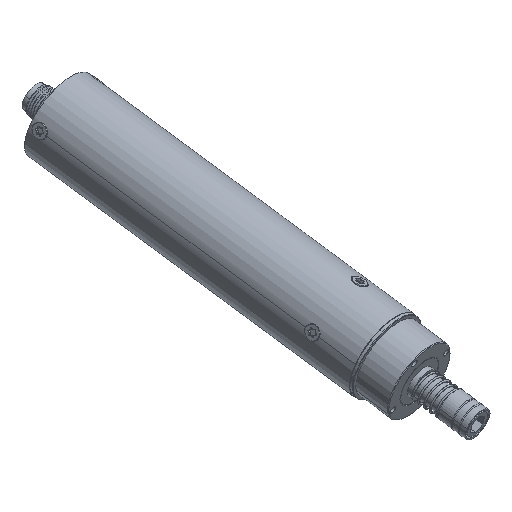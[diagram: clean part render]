
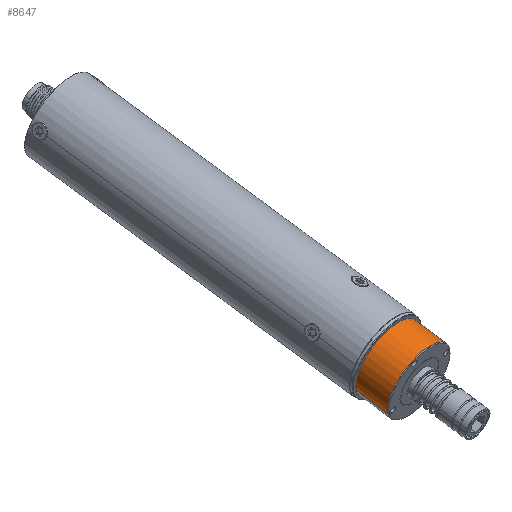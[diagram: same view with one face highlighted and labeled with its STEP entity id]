
A CAD part, top view. The second image highlights one B-rep face of the part: STEP entity #8647.
In plain terms, the highlighted cylindrical face has radius 15 mm (diameter 30 mm), a partial arc.
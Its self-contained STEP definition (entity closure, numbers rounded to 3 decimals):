
#473 = EDGE_CURVE ( 'NONE', #10354, #1283, #24158, .T. ) ;
#554 = DIRECTION ( 'NONE',  ( 0.745, -0.551, 0.377 ) ) ;
#1283 = VERTEX_POINT ( 'NONE', #4104 ) ;
#4039 = DIRECTION ( 'NONE',  ( -0.656, -0.707, 0.263 ) ) ;
#4104 = CARTESIAN_POINT ( 'NONE',  ( -4.143, 137.569, 11.341 ) ) ;
#4416 = CARTESIAN_POINT ( 'NONE',  ( -40.362, 128.582, 10.856 ) ) ;
#4681 = DIRECTION ( 'NONE',  ( 0.745, -0.551, 0.377 ) ) ;
#6434 = CARTESIAN_POINT ( 'NONE',  ( -34.033, 123.901, 14.063 ) ) ;
#7868 = DIRECTION ( 'NONE',  ( -0.745, 0.551, -0.377 ) ) ;
#8045 = EDGE_CURVE ( 'NONE', #24093, #27332, #36124, .T. ) ;
#8256 = LINE ( 'NONE', #4416, #22017 ) ;
#8533 = CARTESIAN_POINT ( 'NONE',  ( -20.671, 149.795, 2.964 ) ) ;
#8647 = ADVANCED_FACE ( 'NONE', ( #19640 ), #21595, .T. ) ;
#10344 = CARTESIAN_POINT ( 'NONE',  ( -23.833, 116.356, 19.232 ) ) ;
#10354 = VERTEX_POINT ( 'NONE', #10344 ) ;
#11690 = CARTESIAN_POINT ( 'NONE',  ( -24.188, 134.507, 10.117 ) ) ;
#12340 = LINE ( 'NONE', #8533, #23544 ) ;
#13942 = AXIS2_PLACEMENT_3D ( 'NONE', #26936, #23169, #19301 ) ;
#15549 = ORIENTED_EDGE ( 'NONE', *, *, #8045, .F. ) ;
#17735 = AXIS2_PLACEMENT_3D ( 'NONE', #36371, #32534, #28664 ) ;
#19301 = DIRECTION ( 'NONE',  ( -0.656, -0.707, 0.263 ) ) ;
#19640 = FACE_OUTER_BOUND ( 'NONE', #27234, .T. ) ;
#20292 = AXIS2_PLACEMENT_3D ( 'NONE', #11690, #7868, #4039 ) ;
#21595 = CYLINDRICAL_SURFACE ( 'NONE', #17735, 15. ) ;
#21614 = CARTESIAN_POINT ( 'NONE',  ( -14.343, 145.114, 6.172 ) ) ;
#22017 = VECTOR ( 'NONE', #554, 1000. ) ;
#22410 = EDGE_CURVE ( 'NONE', #24093, #10354, #8256, .T. ) ;
#23169 = DIRECTION ( 'NONE',  ( -0.745, 0.551, -0.377 ) ) ;
#23403 = EDGE_CURVE ( 'NONE', #27332, #1283, #12340, .T. ) ;
#23544 = VECTOR ( 'NONE', #4681, 1000. ) ;
#24093 = VERTEX_POINT ( 'NONE', #6434 ) ;
#24158 = CIRCLE ( 'NONE', #13942, 15. ) ;
#25807 = ORIENTED_EDGE ( 'NONE', *, *, #473, .T. ) ;
#26936 = CARTESIAN_POINT ( 'NONE',  ( -13.988, 126.962, 15.287 ) ) ;
#27234 = EDGE_LOOP ( 'NONE', ( #15549, #32910, #25807, #37345 ) ) ;
#27332 = VERTEX_POINT ( 'NONE', #21614 ) ;
#28664 = DIRECTION ( 'NONE',  ( 0.656, 0.707, -0.263 ) ) ;
#32534 = DIRECTION ( 'NONE',  ( 0.745, -0.551, 0.377 ) ) ;
#32910 = ORIENTED_EDGE ( 'NONE', *, *, #22410, .T. ) ;
#36124 = CIRCLE ( 'NONE', #20292, 15. ) ;
#36371 = CARTESIAN_POINT ( 'NONE',  ( -30.517, 139.188, 6.91 ) ) ;
#37345 = ORIENTED_EDGE ( 'NONE', *, *, #23403, .F. ) ;
